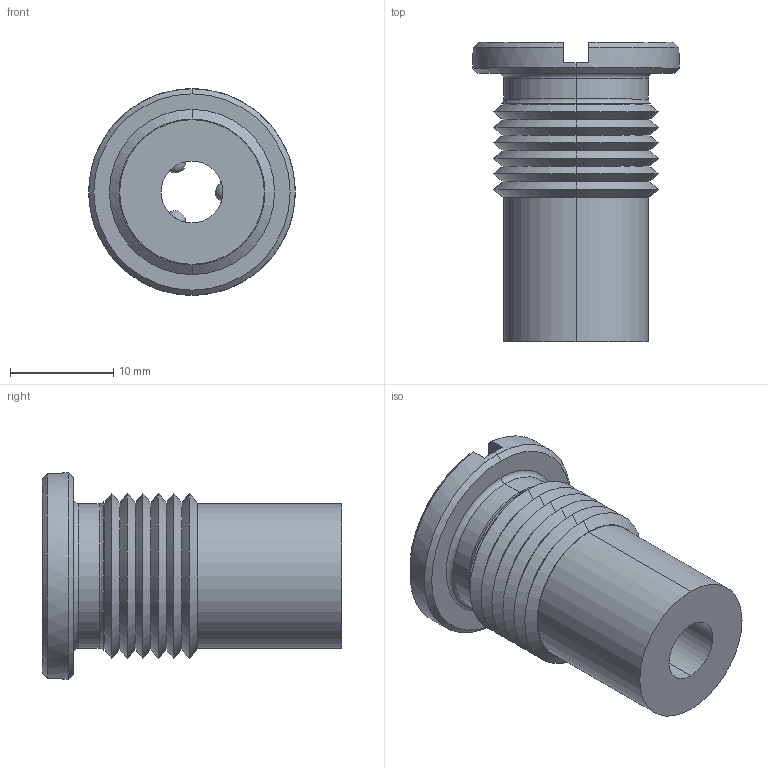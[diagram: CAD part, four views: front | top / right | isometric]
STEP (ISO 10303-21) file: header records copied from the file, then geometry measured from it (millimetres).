
FILE_DESCRIPTION (( 'STEP AP203' ), '1' );
FILE_NAME ('33936.W0807.step', '2021-12-20T16:42:29', ( '' ), ( '' ), 'SwSTEP 2.0', 'SolidWorks 2019', '' );
FILE_SCHEMA (( 'CONFIG_CONTROL_DESIGN' ));
Length unit declared in the file: millimetre
Products named in the file (1): 33936.W0807
Bounding box: 20 x 29 x 20 mm (x, y, z)
Volume: 4003.5 mm3; surface area: 2797.4 mm2
Topology: 1 solids, 1 shells, 60 faces, 140 edges, 83 vertices
Faces by surface type: cone 32, plane 11, cylinder 10, torus 4, sphere 3
Entity records: 1817 total; most frequent: CARTESIAN_POINT 385, DIRECTION 310, ORIENTED_EDGE 264, EDGE_CURVE 132, AXIS2_PLACEMENT_3D 127, VERTEX_POINT 78, CIRCLE 66, EDGE_LOOP 66
